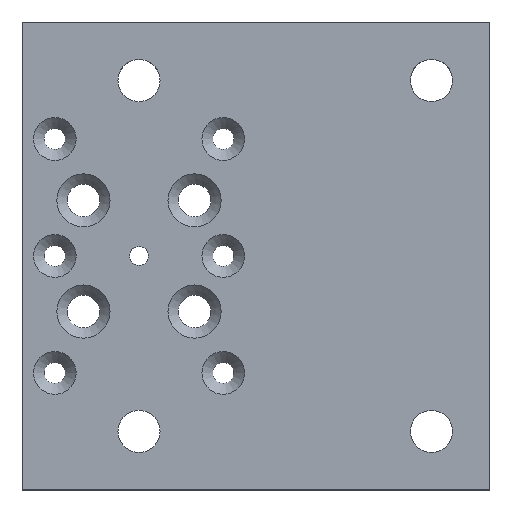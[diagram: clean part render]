
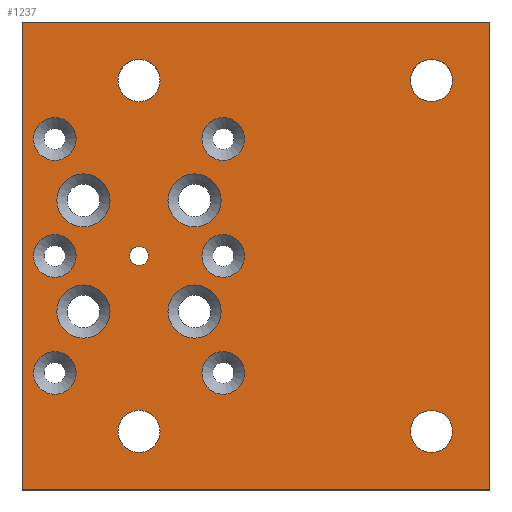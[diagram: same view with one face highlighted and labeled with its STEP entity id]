
A CAD part, top view. The second image highlights one B-rep face of the part: STEP entity #1237.
In plain terms, the highlighted planar face has unit normal (0, 0, 1).
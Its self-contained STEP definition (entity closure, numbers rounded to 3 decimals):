
#566=CIRCLE('',#1161,9.);
#567=CIRCLE('',#1162,4.);
#568=CIRCLE('',#1163,11.365);
#569=CIRCLE('',#1164,11.365);
#570=CIRCLE('',#1165,11.365);
#571=CIRCLE('',#1166,11.365);
#572=CIRCLE('',#1167,9.125);
#573=CIRCLE('',#1168,9.125);
#574=CIRCLE('',#1169,9.125);
#575=CIRCLE('',#1170,9.125);
#576=CIRCLE('',#1171,9.125);
#577=CIRCLE('',#1172,9.125);
#578=CIRCLE('',#1173,9.);
#579=CIRCLE('',#1174,9.);
#580=CIRCLE('',#1175,9.);
#606=ORIENTED_EDGE('',*,*,#782,.F.);
#607=ORIENTED_EDGE('',*,*,#783,.T.);
#608=ORIENTED_EDGE('',*,*,#784,.T.);
#609=ORIENTED_EDGE('',*,*,#785,.F.);
#610=ORIENTED_EDGE('',*,*,#786,.F.);
#611=ORIENTED_EDGE('',*,*,#787,.F.);
#612=ORIENTED_EDGE('',*,*,#788,.F.);
#613=ORIENTED_EDGE('',*,*,#789,.F.);
#614=ORIENTED_EDGE('',*,*,#790,.F.);
#615=ORIENTED_EDGE('',*,*,#791,.F.);
#616=ORIENTED_EDGE('',*,*,#792,.F.);
#617=ORIENTED_EDGE('',*,*,#793,.F.);
#618=ORIENTED_EDGE('',*,*,#794,.F.);
#619=ORIENTED_EDGE('',*,*,#795,.F.);
#620=ORIENTED_EDGE('',*,*,#796,.F.);
#621=ORIENTED_EDGE('',*,*,#797,.F.);
#622=ORIENTED_EDGE('',*,*,#798,.F.);
#623=ORIENTED_EDGE('',*,*,#799,.F.);
#624=ORIENTED_EDGE('',*,*,#800,.F.);
#710=VECTOR('',#1008,1.);
#711=VECTOR('',#1009,1.);
#712=VECTOR('',#1010,1.);
#713=VECTOR('',#1011,1.);
#722=LINE('',#1283,#710);
#723=LINE('',#1285,#711);
#724=LINE('',#1287,#712);
#725=LINE('',#1288,#713);
#734=VERTEX_POINT('',#1281);
#735=VERTEX_POINT('',#1282);
#736=VERTEX_POINT('',#1284);
#737=VERTEX_POINT('',#1286);
#738=VERTEX_POINT('',#1289);
#739=VERTEX_POINT('',#1291);
#740=VERTEX_POINT('',#1293);
#741=VERTEX_POINT('',#1295);
#742=VERTEX_POINT('',#1297);
#743=VERTEX_POINT('',#1299);
#744=VERTEX_POINT('',#1301);
#745=VERTEX_POINT('',#1303);
#746=VERTEX_POINT('',#1305);
#747=VERTEX_POINT('',#1307);
#748=VERTEX_POINT('',#1309);
#749=VERTEX_POINT('',#1311);
#750=VERTEX_POINT('',#1313);
#751=VERTEX_POINT('',#1315);
#752=VERTEX_POINT('',#1317);
#782=EDGE_CURVE('',#734,#735,#722,.T.);
#783=EDGE_CURVE('',#734,#736,#723,.T.);
#784=EDGE_CURVE('',#736,#737,#724,.T.);
#785=EDGE_CURVE('',#735,#737,#725,.T.);
#786=EDGE_CURVE('',#738,#738,#566,.T.);
#787=EDGE_CURVE('',#739,#739,#567,.T.);
#788=EDGE_CURVE('',#740,#740,#568,.T.);
#789=EDGE_CURVE('',#741,#741,#569,.T.);
#790=EDGE_CURVE('',#742,#742,#570,.T.);
#791=EDGE_CURVE('',#743,#743,#571,.T.);
#792=EDGE_CURVE('',#744,#744,#572,.T.);
#793=EDGE_CURVE('',#745,#745,#573,.T.);
#794=EDGE_CURVE('',#746,#746,#574,.T.);
#795=EDGE_CURVE('',#747,#747,#575,.T.);
#796=EDGE_CURVE('',#748,#748,#576,.T.);
#797=EDGE_CURVE('',#749,#749,#577,.T.);
#798=EDGE_CURVE('',#750,#750,#578,.T.);
#799=EDGE_CURVE('',#751,#751,#579,.T.);
#800=EDGE_CURVE('',#752,#752,#580,.T.);
#834=EDGE_LOOP('',(#606,#607,#608,#609));
#835=EDGE_LOOP('',(#610));
#836=EDGE_LOOP('',(#611));
#837=EDGE_LOOP('',(#612));
#838=EDGE_LOOP('',(#613));
#839=EDGE_LOOP('',(#614));
#840=EDGE_LOOP('',(#615));
#841=EDGE_LOOP('',(#616));
#842=EDGE_LOOP('',(#617));
#843=EDGE_LOOP('',(#618));
#844=EDGE_LOOP('',(#619));
#845=EDGE_LOOP('',(#620));
#846=EDGE_LOOP('',(#621));
#847=EDGE_LOOP('',(#622));
#848=EDGE_LOOP('',(#623));
#849=EDGE_LOOP('',(#624));
#920=FACE_BOUND('',#834,.T.);
#921=FACE_BOUND('',#835,.T.);
#922=FACE_BOUND('',#836,.T.);
#923=FACE_BOUND('',#837,.T.);
#924=FACE_BOUND('',#838,.T.);
#925=FACE_BOUND('',#839,.T.);
#926=FACE_BOUND('',#840,.T.);
#927=FACE_BOUND('',#841,.T.);
#928=FACE_BOUND('',#842,.T.);
#929=FACE_BOUND('',#843,.T.);
#930=FACE_BOUND('',#844,.T.);
#931=FACE_BOUND('',#845,.T.);
#932=FACE_BOUND('',#846,.T.);
#933=FACE_BOUND('',#847,.T.);
#934=FACE_BOUND('',#848,.T.);
#935=FACE_BOUND('',#849,.T.);
#1006=DIRECTION('',(0.,0.,1.));
#1007=DIRECTION('',(0.,-1.,0.));
#1008=DIRECTION('',(-200.,0.,0.));
#1009=DIRECTION('',(0.,200.,0.));
#1010=DIRECTION('',(-200.,0.,0.));
#1011=DIRECTION('',(0.,200.,0.));
#1012=DIRECTION('',(0.,0.,1.));
#1013=DIRECTION('',(0.,-9.,0.));
#1014=DIRECTION('',(0.,0.,1.));
#1015=DIRECTION('',(0.,-4.,0.));
#1016=DIRECTION('',(0.,0.,1.));
#1017=DIRECTION('',(0.,11.365,0.));
#1018=DIRECTION('',(0.,0.,1.));
#1019=DIRECTION('',(0.,11.365,0.));
#1020=DIRECTION('',(0.,0.,1.));
#1021=DIRECTION('',(0.,11.365,0.));
#1022=DIRECTION('',(0.,0.,1.));
#1023=DIRECTION('',(0.,11.365,0.));
#1024=DIRECTION('',(0.,0.,1.));
#1025=DIRECTION('',(9.125,0.,0.));
#1026=DIRECTION('',(0.,0.,1.));
#1027=DIRECTION('',(9.125,0.,0.));
#1028=DIRECTION('',(0.,0.,1.));
#1029=DIRECTION('',(9.125,0.,0.));
#1030=DIRECTION('',(0.,0.,1.));
#1031=DIRECTION('',(9.125,0.,0.));
#1032=DIRECTION('',(0.,0.,1.));
#1033=DIRECTION('',(9.125,0.,0.));
#1034=DIRECTION('',(0.,0.,1.));
#1035=DIRECTION('',(9.125,0.,0.));
#1036=DIRECTION('',(0.,0.,1.));
#1037=DIRECTION('',(0.,-9.,0.));
#1038=DIRECTION('',(0.,0.,1.));
#1039=DIRECTION('',(0.,-9.,0.));
#1040=DIRECTION('',(0.,0.,1.));
#1041=DIRECTION('',(0.,-9.,0.));
#1160=AXIS2_PLACEMENT_3D('',#1280,#1006,#1007);
#1161=AXIS2_PLACEMENT_3D('',#1290,#1012,#1013);
#1162=AXIS2_PLACEMENT_3D('',#1292,#1014,#1015);
#1163=AXIS2_PLACEMENT_3D('',#1294,#1016,#1017);
#1164=AXIS2_PLACEMENT_3D('',#1296,#1018,#1019);
#1165=AXIS2_PLACEMENT_3D('',#1298,#1020,#1021);
#1166=AXIS2_PLACEMENT_3D('',#1300,#1022,#1023);
#1167=AXIS2_PLACEMENT_3D('',#1302,#1024,#1025);
#1168=AXIS2_PLACEMENT_3D('',#1304,#1026,#1027);
#1169=AXIS2_PLACEMENT_3D('',#1306,#1028,#1029);
#1170=AXIS2_PLACEMENT_3D('',#1308,#1030,#1031);
#1171=AXIS2_PLACEMENT_3D('',#1310,#1032,#1033);
#1172=AXIS2_PLACEMENT_3D('',#1312,#1034,#1035);
#1173=AXIS2_PLACEMENT_3D('',#1314,#1036,#1037);
#1174=AXIS2_PLACEMENT_3D('',#1316,#1038,#1039);
#1175=AXIS2_PLACEMENT_3D('',#1318,#1040,#1041);
#1231=PLANE('',#1160);
#1237=ADVANCED_FACE('',(#920,#921,#922,#923,#924,#925,#926,#927,#928,#929,
#930,#931,#932,#933,#934,#935),#1231,.T.);
#1280=CARTESIAN_POINT('',(200.,-100.,7.5));
#1281=CARTESIAN_POINT('',(200.,-100.,7.5));
#1282=CARTESIAN_POINT('',(0.,-100.,7.5));
#1283=CARTESIAN_POINT('',(200.,-100.,7.5));
#1284=CARTESIAN_POINT('',(200.,100.,7.5));
#1285=CARTESIAN_POINT('',(200.,-100.,7.5));
#1286=CARTESIAN_POINT('',(0.,100.,7.5));
#1287=CARTESIAN_POINT('',(200.,100.,7.5));
#1288=CARTESIAN_POINT('',(0.,-100.,7.5));
#1289=CARTESIAN_POINT('',(50.,66.,7.5));
#1290=CARTESIAN_POINT('',(50.,75.,7.5));
#1291=CARTESIAN_POINT('',(50.,-4.,7.5));
#1292=CARTESIAN_POINT('',(50.,0.,7.5));
#1293=CARTESIAN_POINT('',(26.25,-12.385,7.5));
#1294=CARTESIAN_POINT('',(26.25,-23.75,7.5));
#1295=CARTESIAN_POINT('',(73.75,-12.385,7.5));
#1296=CARTESIAN_POINT('',(73.75,-23.75,7.5));
#1297=CARTESIAN_POINT('',(26.25,35.115,7.5));
#1298=CARTESIAN_POINT('',(26.25,23.75,7.5));
#1299=CARTESIAN_POINT('',(73.75,35.115,7.5));
#1300=CARTESIAN_POINT('',(73.75,23.75,7.5));
#1301=CARTESIAN_POINT('',(23.125,50.,7.5));
#1302=CARTESIAN_POINT('',(14.,50.,7.5));
#1303=CARTESIAN_POINT('',(23.125,0.,7.5));
#1304=CARTESIAN_POINT('',(14.,0.,7.5));
#1305=CARTESIAN_POINT('',(23.125,-50.,7.5));
#1306=CARTESIAN_POINT('',(14.,-50.,7.5));
#1307=CARTESIAN_POINT('',(95.125,50.,7.5));
#1308=CARTESIAN_POINT('',(86.,50.,7.5));
#1309=CARTESIAN_POINT('',(95.125,0.,7.5));
#1310=CARTESIAN_POINT('',(86.,0.,7.5));
#1311=CARTESIAN_POINT('',(95.125,-50.,7.5));
#1312=CARTESIAN_POINT('',(86.,-50.,7.5));
#1313=CARTESIAN_POINT('',(175.,66.,7.5));
#1314=CARTESIAN_POINT('',(175.,75.,7.5));
#1315=CARTESIAN_POINT('',(50.,-84.,7.5));
#1316=CARTESIAN_POINT('',(50.,-75.,7.5));
#1317=CARTESIAN_POINT('',(175.,-84.,7.5));
#1318=CARTESIAN_POINT('',(175.,-75.,7.5));
